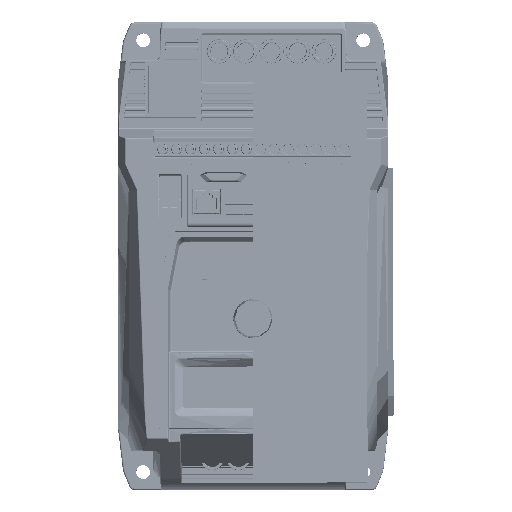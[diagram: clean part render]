
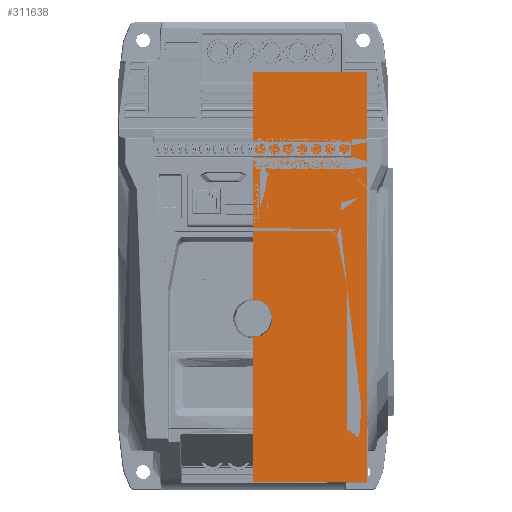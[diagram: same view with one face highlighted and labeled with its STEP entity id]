
A CAD part, top view. The second image highlights one B-rep face of the part: STEP entity #311638.
In plain terms, the highlighted planar face has unit normal (0, 0, 1).
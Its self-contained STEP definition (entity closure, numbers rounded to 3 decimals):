
#311514=DIRECTION('',(0.,1.,0.));
#311515=VECTOR('',#311514,149.);
#311516=CARTESIAN_POINT('',(-0.005,-82.3,115.));
#311517=LINE('',#311516,#311515);
#311521=DIRECTION('',(-1.,0.,0.));
#311522=VECTOR('',#311521,41.5);
#311523=CARTESIAN_POINT('',(41.495,66.7,115.));
#311524=LINE('',#311523,#311522);
#311528=DIRECTION('',(0.,1.,0.));
#311529=VECTOR('',#311528,149.);
#311530=CARTESIAN_POINT('',(41.495,-82.3,115.));
#311531=LINE('',#311530,#311529);
#311535=DIRECTION('',(1.,0.,0.));
#311536=VECTOR('',#311535,41.5);
#311537=CARTESIAN_POINT('',(-0.005,-82.3,115.));
#311538=LINE('',#311537,#311536);
#311567=CARTESIAN_POINT('',(41.495,-82.3,115.));
#311568=CARTESIAN_POINT('',(41.495,66.7,115.));
#311569=VERTEX_POINT('',#311567);
#311570=VERTEX_POINT('',#311568);
#311575=CARTESIAN_POINT('',(-0.005,-82.3,115.));
#311576=CARTESIAN_POINT('',(-0.005,66.7,115.));
#311577=VERTEX_POINT('',#311575);
#311578=VERTEX_POINT('',#311576);
#311624=CARTESIAN_POINT('',(-0.005,-7.8,115.));
#311625=DIRECTION('',(0.,0.,1.));
#311626=DIRECTION('',(1.,0.,0.));
#311627=AXIS2_PLACEMENT_3D('',#311624,#311625,#311626);
#311628=PLANE('',#311627);
#311630=ORIENTED_EDGE('',*,*,#311629,.T.);
#311632=ORIENTED_EDGE('',*,*,#311631,.F.);
#311634=ORIENTED_EDGE('',*,*,#311633,.F.);
#311635=ORIENTED_EDGE('',*,*,#311609,.F.);
#311636=EDGE_LOOP('',(#311630,#311632,#311634,#311635));
#311637=FACE_OUTER_BOUND('',#311636,.F.);
#311609=EDGE_CURVE('',#311577,#311569,#311538,.T.);
#311629=EDGE_CURVE('',#311577,#311578,#311517,.T.);
#311631=EDGE_CURVE('',#311570,#311578,#311524,.T.);
#311633=EDGE_CURVE('',#311569,#311570,#311531,.T.);
#311638=ADVANCED_FACE('',(#311637),#311628,.T.);
